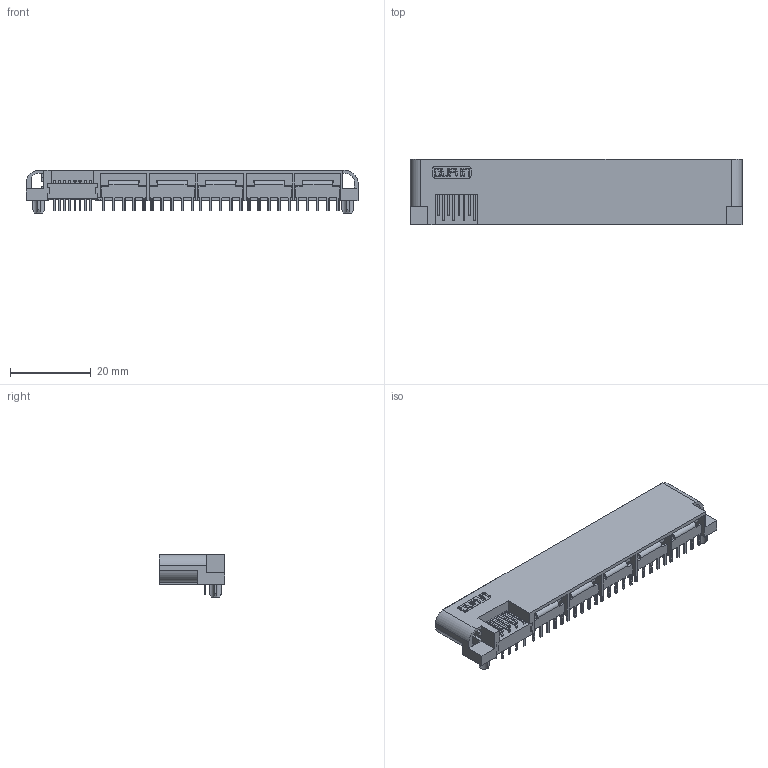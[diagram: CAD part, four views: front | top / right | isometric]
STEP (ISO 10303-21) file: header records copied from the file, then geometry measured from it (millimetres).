
FILE_DESCRIPTION (( 'STEP AP214' ), '1' );
FILE_NAME ('9392-1P10S16P31CB30DA.STEP', '2026-07-16T09:51:51', ( '' ), ( '' ), 'SwSTEP 2.0', 'SolidWorks 2011', '' );
FILE_SCHEMA (( 'AUTOMOTIVE_DESIGN' ));
Products named in the file (1): 9392-1P10S16P31CB30DA
Bounding box: 82.2 x 16.3 x 10.75 mm (x, y, z)
Volume: 4554.7 mm3; surface area: 8857.4 mm2
Topology: 1 solids, 1 shells, 1980 faces, 5664 edges, 3746 vertices
Faces by surface type: plane 1324, cylinder 653, cone 3
Entity records: 64434 total; most frequent: CARTESIAN_POINT 11799, ORIENTED_EDGE 11328, DIRECTION 10742, EDGE_CURVE 5664, VECTOR 4276, LINE 4276, VERTEX_POINT 3746, AXIS2_PLACEMENT_3D 3233
